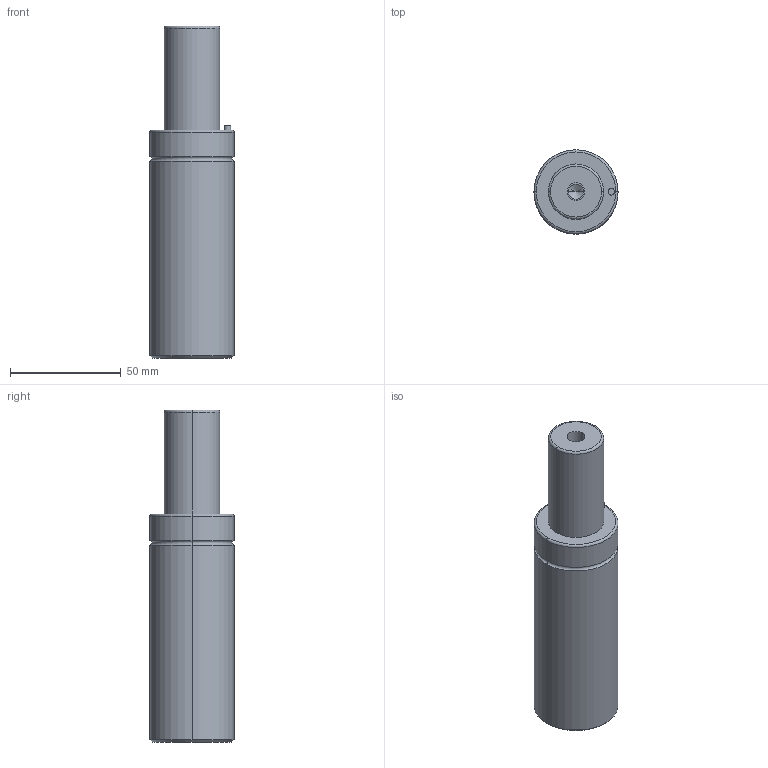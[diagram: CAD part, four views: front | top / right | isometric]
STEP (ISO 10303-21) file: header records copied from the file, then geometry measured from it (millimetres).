
FILE_DESCRIPTION(/* description */ (''),/* implementation_level */ '2;1');
FILE_NAME(/* name */ '3d_gsm38-45_03908_r00.stp',/* time_stamp */ '2011-01-10T14:15:16+09:00',/* author */ ('MISUMI'),/* organization */ (''),/* preprocessor_version */ 'ST-DEVELOPER v11',/* originating_system */ 'UGS - NX 5.0',/* authorisation */ '');
FILE_SCHEMA (('CONFIG_CONTROL_DESIGN'));
Length unit declared in the file: millimetre
Products named in the file (1): 3d_gsm38-45_03908_r00
Bounding box: 38 x 38 x 150 mm (x, y, z)
Volume: 137829.7 mm3; surface area: 19233.1 mm2
Topology: 1 solids, 1 shells, 48 faces, 102 edges, 58 vertices
Faces by surface type: cylinder 24, cone 10, plane 8, torus 6
Entity records: 1332 total; most frequent: DIRECTION 252, CARTESIAN_POINT 201, ORIENTED_EDGE 188, AXIS2_PLACEMENT_3D 109, EDGE_CURVE 94, CIRCLE 60, EDGE_LOOP 58, VERTEX_POINT 58
